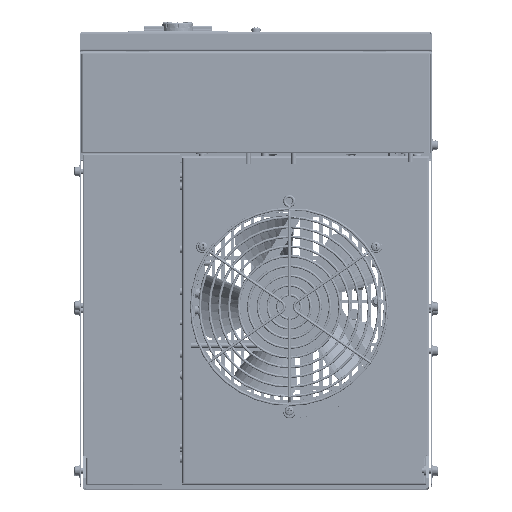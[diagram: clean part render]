
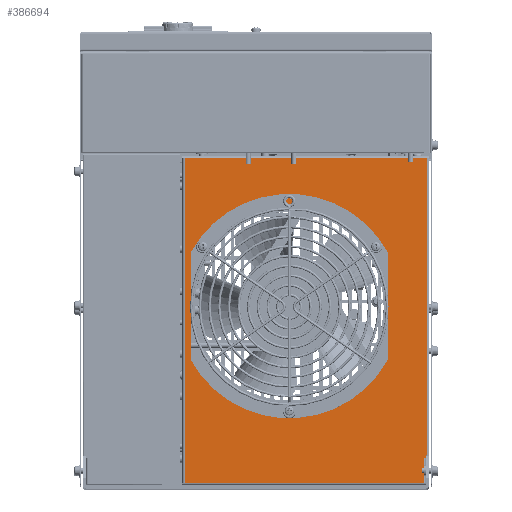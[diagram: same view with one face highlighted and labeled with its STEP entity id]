
A CAD part, top view. The second image highlights one B-rep face of the part: STEP entity #386694.
In plain terms, the highlighted planar face has unit normal (0, 0, 1).
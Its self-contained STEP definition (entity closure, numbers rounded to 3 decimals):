
#20151=FACE_BOUND('',#75421,.T.);
#20152=FACE_BOUND('',#75422,.T.);
#20153=FACE_BOUND('',#75423,.T.);
#20154=FACE_BOUND('',#75424,.T.);
#33166=PLANE('',#416143);
#52966=FACE_OUTER_BOUND('',#75420,.T.);
#75420=EDGE_LOOP('',(#352406,#352407,#352408,#352409,#352410,#352411,#352412,
#352413));
#75421=EDGE_LOOP('',(#352414,#352415));
#75422=EDGE_LOOP('',(#352416,#352417));
#75423=EDGE_LOOP('',(#352418,#352419));
#75424=EDGE_LOOP('',(#352420,#352421));
#113157=LINE('',#688675,#153077);
#113158=LINE('',#688678,#153078);
#113159=LINE('',#688680,#153079);
#113160=LINE('',#688681,#153080);
#113161=LINE('',#688682,#153081);
#113162=LINE('',#688683,#153082);
#113163=LINE('',#688684,#153083);
#113164=LINE('',#688685,#153084);
#153077=VECTOR('',#505583,1.7);
#153078=VECTOR('',#505586,2.);
#153079=VECTOR('',#505587,1.);
#153080=VECTOR('',#505588,227.8);
#153081=VECTOR('',#505589,186.1);
#153082=VECTOR('',#505590,248.9);
#153083=VECTOR('',#505591,183.4);
#153084=VECTOR('',#505592,19.1);
#165413=CIRCLE('',#416144,74.);
#165414=CIRCLE('',#416145,74.);
#165415=CIRCLE('',#416146,2.7);
#165416=CIRCLE('',#416147,2.7);
#165417=CIRCLE('',#416148,2.7);
#165418=CIRCLE('',#416149,2.7);
#165419=CIRCLE('',#416150,2.7);
#165420=CIRCLE('',#416151,2.7);
#198025=VERTEX_POINT('',#688610);
#198028=VERTEX_POINT('',#688617);
#198031=VERTEX_POINT('',#688624);
#198034=VERTEX_POINT('',#688631);
#198037=VERTEX_POINT('',#688638);
#198046=VERTEX_POINT('',#688673);
#198047=VERTEX_POINT('',#688677);
#198048=VERTEX_POINT('',#688679);
#198049=VERTEX_POINT('',#688686);
#198050=VERTEX_POINT('',#688687);
#198051=VERTEX_POINT('',#688690);
#198052=VERTEX_POINT('',#688691);
#198053=VERTEX_POINT('',#688694);
#198054=VERTEX_POINT('',#688695);
#198055=VERTEX_POINT('',#688698);
#198056=VERTEX_POINT('',#688699);
#250158=EDGE_CURVE('',#198031,#198046,#113157,.T.);
#250159=EDGE_CURVE('',#198046,#198047,#113158,.T.);
#250160=EDGE_CURVE('',#198048,#198047,#113159,.T.);
#250161=EDGE_CURVE('',#198028,#198048,#113160,.T.);
#250162=EDGE_CURVE('',#198034,#198028,#113161,.T.);
#250163=EDGE_CURVE('',#198025,#198034,#113162,.T.);
#250164=EDGE_CURVE('',#198037,#198025,#113163,.T.);
#250165=EDGE_CURVE('',#198031,#198037,#113164,.T.);
#250166=EDGE_CURVE('',#198049,#198050,#165413,.T.);
#250167=EDGE_CURVE('',#198050,#198049,#165414,.T.);
#250168=EDGE_CURVE('',#198051,#198052,#165415,.T.);
#250169=EDGE_CURVE('',#198052,#198051,#165416,.T.);
#250170=EDGE_CURVE('',#198053,#198054,#165417,.T.);
#250171=EDGE_CURVE('',#198054,#198053,#165418,.T.);
#250172=EDGE_CURVE('',#198055,#198056,#165419,.T.);
#250173=EDGE_CURVE('',#198056,#198055,#165420,.T.);
#352406=ORIENTED_EDGE('',*,*,#250159,.T.);
#352407=ORIENTED_EDGE('',*,*,#250160,.F.);
#352408=ORIENTED_EDGE('',*,*,#250161,.F.);
#352409=ORIENTED_EDGE('',*,*,#250162,.F.);
#352410=ORIENTED_EDGE('',*,*,#250163,.F.);
#352411=ORIENTED_EDGE('',*,*,#250164,.F.);
#352412=ORIENTED_EDGE('',*,*,#250165,.F.);
#352413=ORIENTED_EDGE('',*,*,#250158,.T.);
#352414=ORIENTED_EDGE('',*,*,#250166,.F.);
#352415=ORIENTED_EDGE('',*,*,#250167,.F.);
#352416=ORIENTED_EDGE('',*,*,#250168,.F.);
#352417=ORIENTED_EDGE('',*,*,#250169,.F.);
#352418=ORIENTED_EDGE('',*,*,#250170,.F.);
#352419=ORIENTED_EDGE('',*,*,#250171,.F.);
#352420=ORIENTED_EDGE('',*,*,#250172,.F.);
#352421=ORIENTED_EDGE('',*,*,#250173,.F.);
#386694=ADVANCED_FACE('',(#52966,#20151,#20152,#20153,#20154),#33166,.F.);
#416143=AXIS2_PLACEMENT_3D('',#688676,#505584,#505585);
#416144=AXIS2_PLACEMENT_3D('',#688688,#505593,#505594);
#416145=AXIS2_PLACEMENT_3D('',#688689,#505595,#505596);
#416146=AXIS2_PLACEMENT_3D('',#688692,#505597,#505598);
#416147=AXIS2_PLACEMENT_3D('',#688693,#505599,#505600);
#416148=AXIS2_PLACEMENT_3D('',#688696,#505601,#505602);
#416149=AXIS2_PLACEMENT_3D('',#688697,#505603,#505604);
#416150=AXIS2_PLACEMENT_3D('',#688700,#505605,#505606);
#416151=AXIS2_PLACEMENT_3D('',#688701,#505607,#505608);
#505583=DIRECTION('',(1.,0.,0.));
#505584=DIRECTION('center_axis',(0.,0.,-1.));
#505585=DIRECTION('ref_axis',(-1.,0.,0.));
#505586=DIRECTION('',(0.,1.,0.));
#505587=DIRECTION('',(-1.,0.,0.));
#505588=DIRECTION('',(0.,-1.,0.));
#505589=DIRECTION('',(1.,0.,0.));
#505590=DIRECTION('',(0.,1.,0.));
#505591=DIRECTION('',(-1.,0.,0.));
#505592=DIRECTION('',(0.,-1.,0.));
#505593=DIRECTION('center_axis',(0.,0.,1.));
#505594=DIRECTION('ref_axis',(0.,-1.,0.));
#505595=DIRECTION('center_axis',(0.,0.,1.));
#505596=DIRECTION('ref_axis',(0.,-1.,0.));
#505597=DIRECTION('center_axis',(0.,0.,1.));
#505598=DIRECTION('ref_axis',(-1.,0.,0.));
#505599=DIRECTION('center_axis',(0.,0.,1.));
#505600=DIRECTION('ref_axis',(-1.,0.,0.));
#505601=DIRECTION('center_axis',(0.,0.,1.));
#505602=DIRECTION('ref_axis',(-1.,0.,0.));
#505603=DIRECTION('center_axis',(0.,0.,1.));
#505604=DIRECTION('ref_axis',(-1.,0.,0.));
#505605=DIRECTION('center_axis',(0.,0.,1.));
#505606=DIRECTION('ref_axis',(-1.,0.,0.));
#505607=DIRECTION('center_axis',(0.,0.,1.));
#505608=DIRECTION('ref_axis',(-1.,0.,0.));
#688610=CARTESIAN_POINT('',(-54.8,4.4,235.));
#688617=CARTESIAN_POINT('',(131.3,253.3,235.));
#688624=CARTESIAN_POINT('',(128.6,23.5,235.));
#688631=CARTESIAN_POINT('',(-54.8,253.3,235.));
#688638=CARTESIAN_POINT('',(128.6,4.4,235.));
#688673=CARTESIAN_POINT('',(130.3,23.5,235.));
#688675=CARTESIAN_POINT('',(128.6,23.5,235.));
#688676=CARTESIAN_POINT('Origin',(-135.,0.,235.));
#688677=CARTESIAN_POINT('',(130.3,25.5,235.));
#688678=CARTESIAN_POINT('',(130.3,23.5,235.));
#688679=CARTESIAN_POINT('',(131.3,25.5,235.));
#688680=CARTESIAN_POINT('',(131.3,25.5,235.));
#688681=CARTESIAN_POINT('',(131.3,253.3,235.));
#688682=CARTESIAN_POINT('',(-54.8,253.3,235.));
#688683=CARTESIAN_POINT('',(-54.8,4.4,235.));
#688684=CARTESIAN_POINT('',(128.6,4.4,235.));
#688685=CARTESIAN_POINT('',(128.6,23.5,235.));
#688686=CARTESIAN_POINT('',(25.5,66.,235.));
#688687=CARTESIAN_POINT('',(25.5,214.,235.));
#688688=CARTESIAN_POINT('Origin',(25.5,140.,235.));
#688689=CARTESIAN_POINT('Origin',(25.5,140.,235.));
#688690=CARTESIAN_POINT('',(89.109,185.573,235.));
#688691=CARTESIAN_POINT('',(94.509,185.573,235.));
#688692=CARTESIAN_POINT('Origin',(91.809,185.573,235.));
#688693=CARTESIAN_POINT('Origin',(91.809,185.573,235.));
#688694=CARTESIAN_POINT('',(22.8,59.54,235.));
#688695=CARTESIAN_POINT('',(28.2,59.54,235.));
#688696=CARTESIAN_POINT('Origin',(25.5,59.54,235.));
#688697=CARTESIAN_POINT('Origin',(25.5,59.54,235.));
#688698=CARTESIAN_POINT('',(-43.509,185.573,235.));
#688699=CARTESIAN_POINT('',(-38.109,185.573,235.));
#688700=CARTESIAN_POINT('Origin',(-40.809,185.573,235.));
#688701=CARTESIAN_POINT('Origin',(-40.809,185.573,235.));
